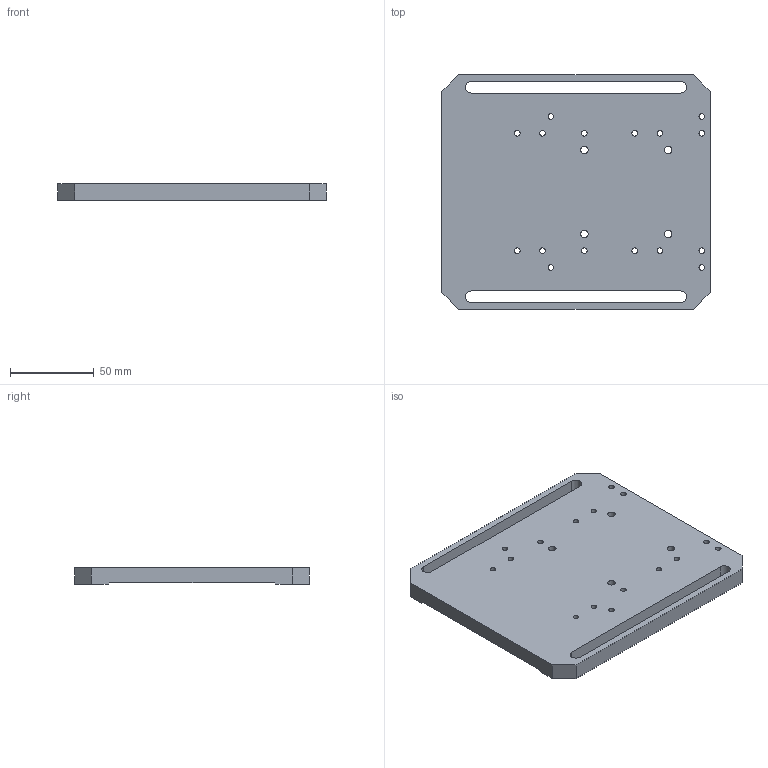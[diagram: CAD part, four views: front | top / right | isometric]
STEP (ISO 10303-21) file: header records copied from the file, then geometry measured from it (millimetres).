
FILE_DESCRIPTION( ( 'STEP AP203' ), '1' );
FILE_NAME( 'C:/3D-Trans/3D_A24-6+071218.stp', '2007-12-18T05:02:55', ( ' ' ), ( ' ' ), 'XStep 1.0', ' ', ' ' );
FILE_SCHEMA( ( 'CONFIG_CONTROL_DESIGN' ) );
Length unit declared in the file: millimetre
Products named in the file (1): 1
Bounding box: 160 x 140 x 10 mm (x, y, z)
Volume: 185605.1 mm3; surface area: 53640.9 mm2
Topology: 1 solids, 1 shells, 50 faces, 152 edges, 108 vertices
Faces by surface type: cylinder 28, plane 22
Full cylindrical faces by diameter (mm): 3.3 x16, 4.5 x4, 8 x4
Entity records: 1584 total; most frequent: DIRECTION 266, CARTESIAN_POINT 247, ORIENTED_EDGE 216, EDGE_LOOP 122, EDGE_CURVE 108, AXIS2_PLACEMENT_3D 107, VERTEX_POINT 88, FACE_OUTER_BOUND 74
